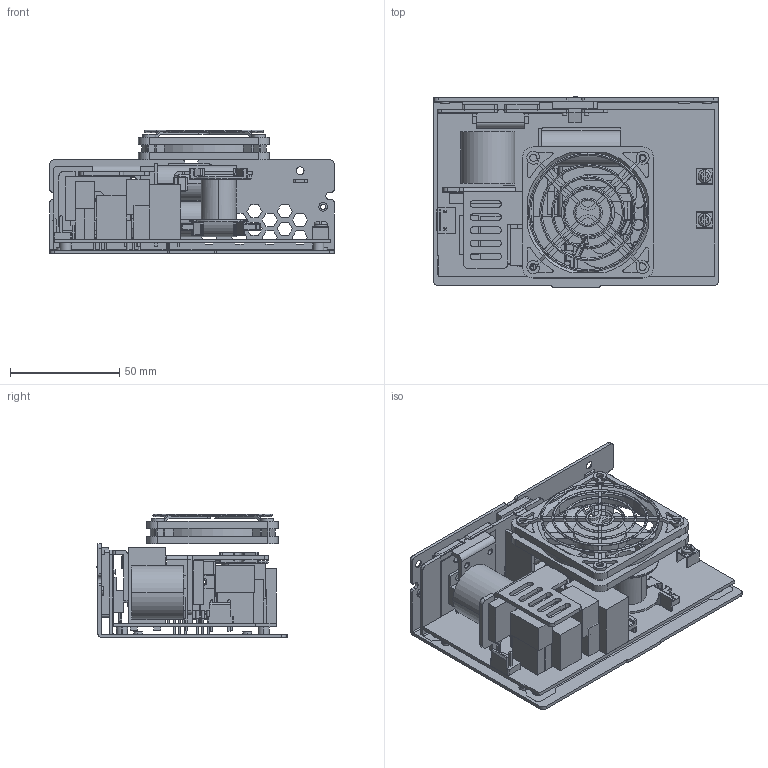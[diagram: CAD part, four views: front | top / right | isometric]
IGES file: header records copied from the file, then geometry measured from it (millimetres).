
Start section: Elysium IGES Interface
Global section: file name: C:\Users\james_cheng\Desktop\RPS-500.igs; native system: PTC Creo Elements/Direct Modeling 19.0  09-May-2014; preprocessor: Creo Element/Direct IGES_3D V2.2; author: Unknown; organization: Unknown; date: 20210126.134533; units: millimetre
Bounding box: 130 x 87.1 x 56.54 mm (x, y, z)
Volume: 144338 mm3; surface area: 136357.4 mm2
Topology: 37 solids, 37 shells, 1972 faces, 5111 edges, 3182 vertices
Faces by surface type: bspline 1972
